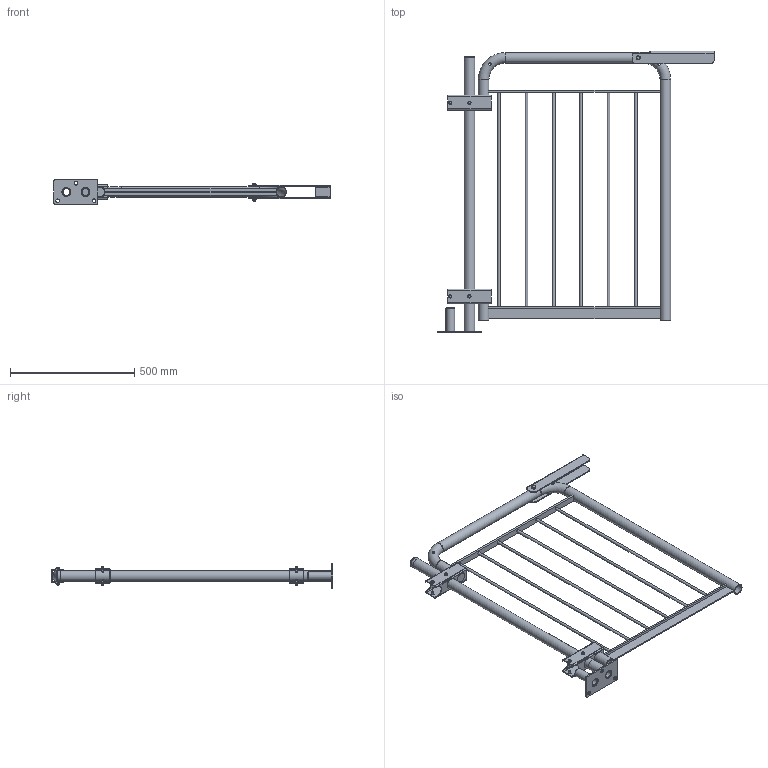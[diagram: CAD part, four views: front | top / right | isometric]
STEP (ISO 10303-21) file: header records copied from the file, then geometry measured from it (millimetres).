
FILE_DESCRIPTION((''),'2;1');
FILE_NAME('S:\Användarkataloger\AndreasA\Mina Inventor filer\Räcken\STEP\grind_bos_topp_850.stp','2010-09-07T14:03:56',('AndreasA'),(''),'Autodesk Inventor 2011','Autodesk Inventor 2011','');
FILE_SCHEMA(('AUTOMOTIVE_DESIGN { 1 0 10303 214 1 1 1 1 }'));
Length unit declared in the file: millimetre
Products named in the file (18): grind_bos_topp_850; stolpe_grind_1100; ändavslutare_42,4x2; gångjärn_grind; grindbåge_bos_850; rör_grindbåge_bos_850; galleri_grindbåge_850; pls_grindbåge_850; rör_grindbåge_bos_122; låsbygel_grind; fäste_R4; bricka_r4; rör_fäste_r3_r4; Bolted Connection; SS 3576 8; ISO 4014 M8 x 65; ISO 4032 M8; Hex Flange Head Tapping Screw - Type T - Metric M6x1 x 16
Assembly tree (27 placements, depth 3):
  grind_bos_topp_850
    stolpe_grind_1100
    ändavslutare_42,4x2
    gångjärn_grind  x2
    grindbåge_bos_850
      rör_grindbåge_bos_850
      galleri_grindbåge_850
      pls_grindbåge_850
      rör_grindbåge_bos_122
    låsbygel_grind
    fäste_R4
      bricka_r4
      rör_fäste_r3_r4  x2
    Bolted Connection
      SS 3576 8  x2
      ISO 4014 M8 x 65
      ISO 4032 M8
    Hex Flange Head Tapping Screw - Type T - Metric M6x1 x 16  x8
Bounding box: 1111.2 x 1133 x 100 mm (x, y, z)
Volume: 2234336.8 mm3; surface area: 1429326.5 mm2
Topology: 24 solids, 24 shells, 397 faces, 899 edges, 559 vertices
Faces by surface type: plane 191, cylinder 100, cone 79, torus 21, bspline 6
Full cylindrical faces by diameter (mm): 6 x8, 6.647 x1, 7 x8, 8 x1, 8.4 x2, 10 x8, 11 x6, 11.63 x1, 14.5 x3, 16 x2, 27 x2, 35 x2, 36 x2, 38.4 x6, 42.4 x6, 45 x6
Entity records: 7216 total; most frequent: CARTESIAN_POINT 1964, DIRECTION 1032, ORIENTED_EDGE 860, EDGE_CURVE 430, AXIS2_PLACEMENT_3D 414, EDGE_LOOP 346, VERTEX_POINT 308, FACE_OUTER_BOUND 215
